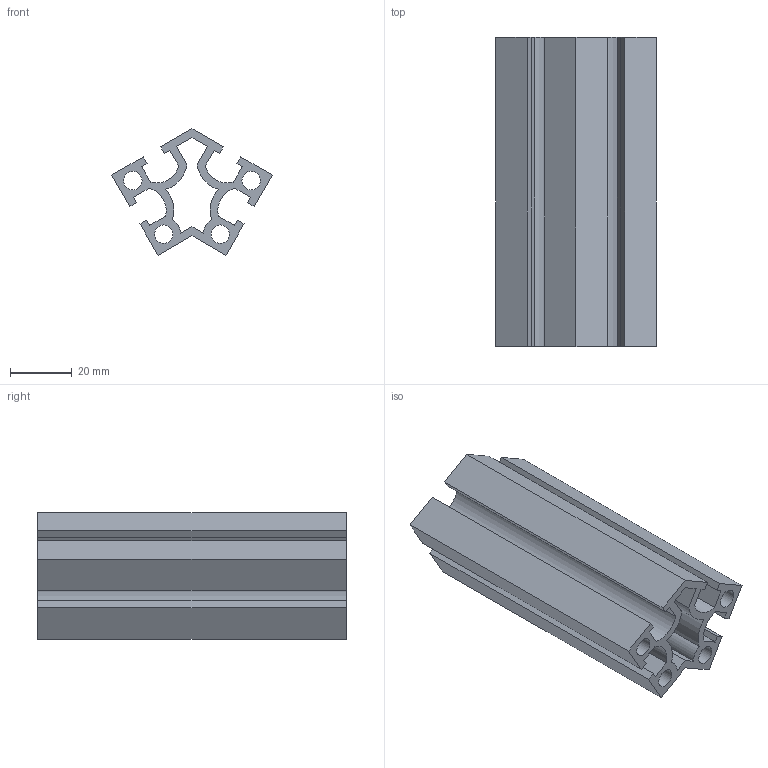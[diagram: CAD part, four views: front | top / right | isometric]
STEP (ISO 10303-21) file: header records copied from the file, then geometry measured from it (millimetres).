
FILE_DESCRIPTION(/* description */ ('Unknown'),/* implementation_level */ '2;1');
FILE_NAME(/* name */ 'NMW30120',/* time_stamp */ '2026-08-31T11:24:24+08:00',/* author */ ('Unknown'),/* organization */ ('Unknown'),/* preprocessor_version */ 'ST-DEVELOPER v16.7',/* originating_system */ 'DEX',/* authorisation */ $);
FILE_SCHEMA (('AUTOMOTIVE_DESIGN {1 0 10303 214 3 1 1}'));
Length unit declared in the file: millimetre
Products named in the file (1): W30120-
Bounding box: 51.96 x 100 x 40.98 mm (x, y, z)
Volume: 52162.2 mm3; surface area: 42232.7 mm2
Topology: 1 solids, 1 shells, 56 faces, 166 edges, 112 vertices
Faces by surface type: plane 42, cylinder 14
Full cylindrical faces by diameter (mm): 6 x4
Entity records: 1864 total; most frequent: CARTESIAN_POINT 323, ORIENTED_EDGE 316, DIRECTION 300, EDGE_CURVE 158, LINE 130, VECTOR 130, VERTEX_POINT 108, AXIS2_PLACEMENT_3D 85
